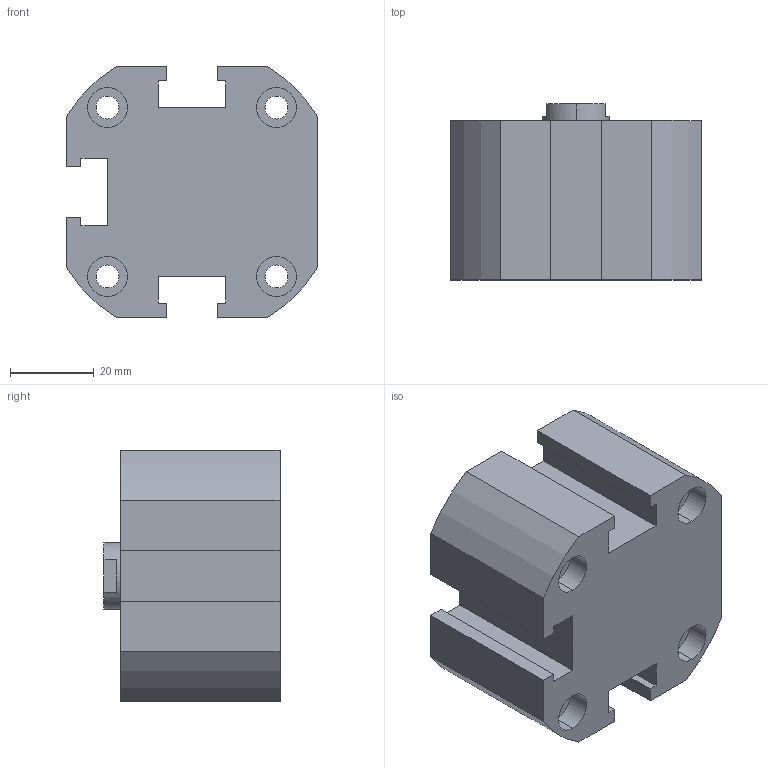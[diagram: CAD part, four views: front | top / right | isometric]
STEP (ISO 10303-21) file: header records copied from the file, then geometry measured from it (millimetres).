
FILE_DESCRIPTION (( 'STEP AP203' ), '1' );
FILE_NAME ('XC#2-40-10.STEP', '2016-05-23T08:10:14', ( '' ), ( '' ), 'SwSTEP 2.0', 'SolidWorks 2014', '' );
FILE_SCHEMA (( 'CONFIG_CONTROL_DESIGN' ));
Length unit declared in the file: millimetre
Products named in the file (1): XC#2-40-10
Bounding box: 60 x 42 x 60 mm (x, y, z)
Volume: 103800.7 mm3; surface area: 21564.9 mm2
Topology: 1 solids, 1 shells, 114 faces, 283 edges, 183 vertices
Faces by surface type: cylinder 54, plane 50, cone 10
Entity records: 3474 total; most frequent: DIRECTION 627, CARTESIAN_POINT 575, ORIENTED_EDGE 554, EDGE_CURVE 277, AXIS2_PLACEMENT_3D 235, VERTEX_POINT 183, VECTOR 157, LINE 157
